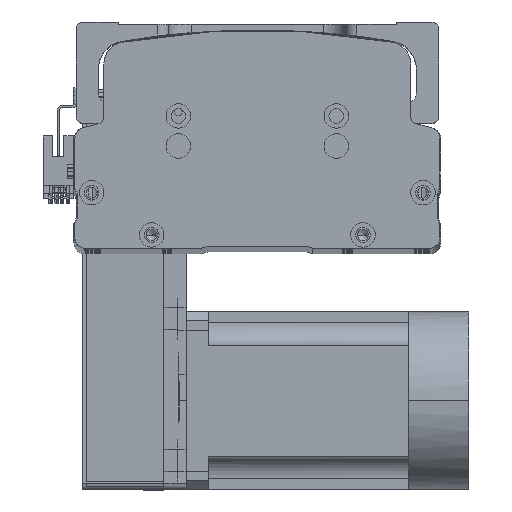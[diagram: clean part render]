
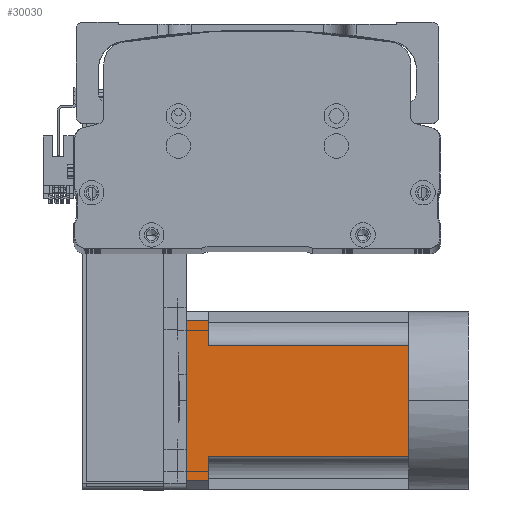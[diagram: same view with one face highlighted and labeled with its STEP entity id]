
A CAD part, top view. The second image highlights one B-rep face of the part: STEP entity #30030.
In plain terms, the highlighted planar face has unit normal (0, 0, 1) as drawn and (0, 0, -1) by its records, which use the part's own axes.
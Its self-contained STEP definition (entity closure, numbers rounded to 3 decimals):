
#1131 = VERTEX_POINT ( 'NONE', #53501 ) ;
#1976 = CARTESIAN_POINT ( 'NONE',  ( 0., 0., -40. ) ) ;
#2012 = VERTEX_POINT ( 'NONE', #19178 ) ;
#2240 = ORIENTED_EDGE ( 'NONE', *, *, #3906, .T. ) ;
#2628 = VECTOR ( 'NONE', #33710, 1000. ) ;
#3795 = EDGE_CURVE ( 'NONE', #33429, #13905, #26103, .T. ) ;
#3906 = EDGE_CURVE ( 'NONE', #5185, #1131, #43105, .T. ) ;
#4160 = PLANE ( 'NONE',  #44848 ) ;
#4258 = VECTOR ( 'NONE', #66459, 1000. ) ;
#5160 = CARTESIAN_POINT ( 'NONE',  ( 36., 100., -40. ) ) ;
#5185 = VERTEX_POINT ( 'NONE', #46595 ) ;
#7118 = LINE ( 'NONE', #17848, #45058 ) ;
#8377 = LINE ( 'NONE', #14080, #60019 ) ;
#8747 = LINE ( 'NONE', #11268, #60408 ) ;
#9371 = DIRECTION ( 'NONE',  ( -1., 0., 0. ) ) ;
#9388 = ORIENTED_EDGE ( 'NONE', *, *, #32054, .T. ) ;
#10877 = LINE ( 'NONE', #26967, #48766 ) ;
#11268 = CARTESIAN_POINT ( 'NONE',  ( -36., -27., -40. ) ) ;
#12122 = DIRECTION ( 'NONE',  ( -1., 0., 0. ) ) ;
#12401 = VECTOR ( 'NONE', #53124, 1000. ) ;
#13227 = CARTESIAN_POINT ( 'NONE',  ( -25., -27., -40. ) ) ;
#13905 = VERTEX_POINT ( 'NONE', #1976 ) ;
#14080 = CARTESIAN_POINT ( 'NONE',  ( -40., 100., -40. ) ) ;
#16873 = EDGE_CURVE ( 'NONE', #2012, #65767, #7118, .T. ) ;
#16993 = CARTESIAN_POINT ( 'NONE',  ( 25., 90., -40. ) ) ;
#17848 = CARTESIAN_POINT ( 'NONE',  ( -40., 90., -40. ) ) ;
#19178 = CARTESIAN_POINT ( 'NONE',  ( 36., 90., -40. ) ) ;
#20544 = VECTOR ( 'NONE', #56798, 1000. ) ;
#22208 = CARTESIAN_POINT ( 'NONE',  ( 36., -27., -40. ) ) ;
#24690 = CARTESIAN_POINT ( 'NONE',  ( -40., -27., -40. ) ) ;
#26103 = LINE ( 'NONE', #37551, #65663 ) ;
#26544 = CARTESIAN_POINT ( 'NONE',  ( -36., 100., -40. ) ) ;
#26908 = VERTEX_POINT ( 'NONE', #26544 ) ;
#26931 = CARTESIAN_POINT ( 'NONE',  ( -36., 90., -40. ) ) ;
#26967 = CARTESIAN_POINT ( 'NONE',  ( -40., 90., -40. ) ) ;
#30030 = ADVANCED_FACE ( 'NONE', ( #35308 ), #4160, .T. ) ;
#32054 = EDGE_CURVE ( 'NONE', #13905, #5185, #32613, .T. ) ;
#32157 = EDGE_CURVE ( 'NONE', #1131, #44646, #10877, .T. ) ;
#32613 = LINE ( 'NONE', #36286, #20544 ) ;
#33429 = VERTEX_POINT ( 'NONE', #53858 ) ;
#33710 = DIRECTION ( 'NONE',  ( 0., 1., 0. ) ) ;
#35308 = FACE_OUTER_BOUND ( 'NONE', #37478, .T. ) ;
#35669 = EDGE_CURVE ( 'NONE', #65767, #33429, #59138, .T. ) ;
#36286 = CARTESIAN_POINT ( 'NONE',  ( -40., 0., -40. ) ) ;
#36866 = ORIENTED_EDGE ( 'NONE', *, *, #32157, .T. ) ;
#37478 = EDGE_LOOP ( 'NONE', ( #41049, #54501, #60071, #50660, #57160, #9388, #2240, #36866, #48309 ) ) ;
#37551 = CARTESIAN_POINT ( 'NONE',  ( -40., 0., -40. ) ) ;
#40257 = DIRECTION ( 'NONE',  ( 0., 0., -1. ) ) ;
#41049 = ORIENTED_EDGE ( 'NONE', *, *, #41192, .F. ) ;
#41192 = EDGE_CURVE ( 'NONE', #53366, #26908, #8377, .T. ) ;
#43105 = LINE ( 'NONE', #13227, #2628 ) ;
#44646 = VERTEX_POINT ( 'NONE', #26931 ) ;
#44848 = AXIS2_PLACEMENT_3D ( 'NONE', #24690, #40257, #9371 ) ;
#45058 = VECTOR ( 'NONE', #53931, 1000. ) ;
#45715 = CARTESIAN_POINT ( 'NONE',  ( 25., -27., -40. ) ) ;
#46595 = CARTESIAN_POINT ( 'NONE',  ( -25., 0., -40. ) ) ;
#48309 = ORIENTED_EDGE ( 'NONE', *, *, #53481, .T. ) ;
#48766 = VECTOR ( 'NONE', #63094, 1000. ) ;
#50159 = DIRECTION ( 'NONE',  ( -1., 0., 0. ) ) ;
#50660 = ORIENTED_EDGE ( 'NONE', *, *, #35669, .T. ) ;
#53124 = DIRECTION ( 'NONE',  ( 0., -1., 0. ) ) ;
#53366 = VERTEX_POINT ( 'NONE', #5160 ) ;
#53481 = EDGE_CURVE ( 'NONE', #44646, #26908, #8747, .T. ) ;
#53501 = CARTESIAN_POINT ( 'NONE',  ( -25., 90., -40. ) ) ;
#53504 = LINE ( 'NONE', #22208, #12401 ) ;
#53858 = CARTESIAN_POINT ( 'NONE',  ( 25., 0., -40. ) ) ;
#53931 = DIRECTION ( 'NONE',  ( -1., 0., 0. ) ) ;
#54501 = ORIENTED_EDGE ( 'NONE', *, *, #62538, .T. ) ;
#56798 = DIRECTION ( 'NONE',  ( -1., 0., 0. ) ) ;
#57160 = ORIENTED_EDGE ( 'NONE', *, *, #3795, .T. ) ;
#57697 = DIRECTION ( 'NONE',  ( 0., 1., 0. ) ) ;
#59138 = LINE ( 'NONE', #45715, #4258 ) ;
#60019 = VECTOR ( 'NONE', #50159, 1000. ) ;
#60071 = ORIENTED_EDGE ( 'NONE', *, *, #16873, .T. ) ;
#60408 = VECTOR ( 'NONE', #57697, 1000. ) ;
#62538 = EDGE_CURVE ( 'NONE', #53366, #2012, #53504, .T. ) ;
#63094 = DIRECTION ( 'NONE',  ( -1., 0., 0. ) ) ;
#65663 = VECTOR ( 'NONE', #12122, 1000. ) ;
#65767 = VERTEX_POINT ( 'NONE', #16993 ) ;
#66459 = DIRECTION ( 'NONE',  ( 0., -1., 0. ) ) ;
